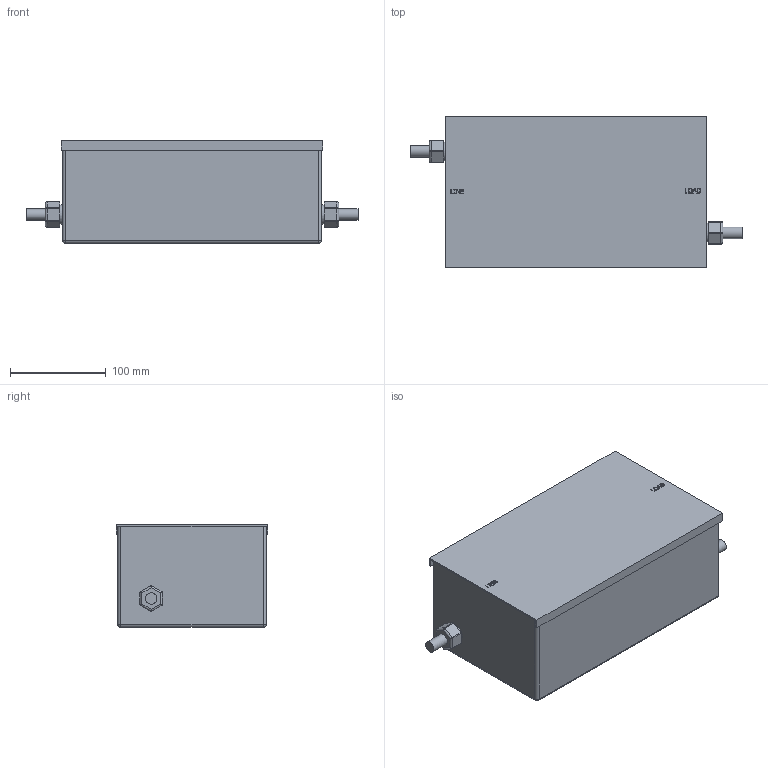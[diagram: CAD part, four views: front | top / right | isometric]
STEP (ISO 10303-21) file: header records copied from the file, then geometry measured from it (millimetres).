
FILE_DESCRIPTION((''),'2;1');
FILE_NAME('L:\INVENTOR_Projektedaten\HousingDesign\FN354-15_25-47.stp','2012-12-10T12:00:42',('Samuel.Meier'),(''),'Autodesk Inventor 2010','Autodesk Inventor 2010','');
FILE_SCHEMA(('AUTOMOTIVE_DESIGN { 1 2 10303 214 0 1 1 1 }'));
Length unit declared in the file: millimetre
Products named in the file (1): Bauteil8
Bounding box: 346 x 158 x 107 mm (x, y, z)
Volume: 4504080.2 mm3; surface area: 181335.3 mm2
Topology: 1 solids, 1 shells, 192 faces, 473 edges, 288 vertices
Faces by surface type: plane 114, cylinder 40, bspline 34, sphere 4
Full cylindrical faces by diameter (mm): 8 x4, 12 x2, 20 x2
Entity records: 6079 total; most frequent: CARTESIAN_POINT 1566, ORIENTED_EDGE 894, DIRECTION 801, EDGE_CURVE 447, VECTOR 323, LINE 323, VERTEX_POINT 286, AXIS2_PLACEMENT_3D 239
